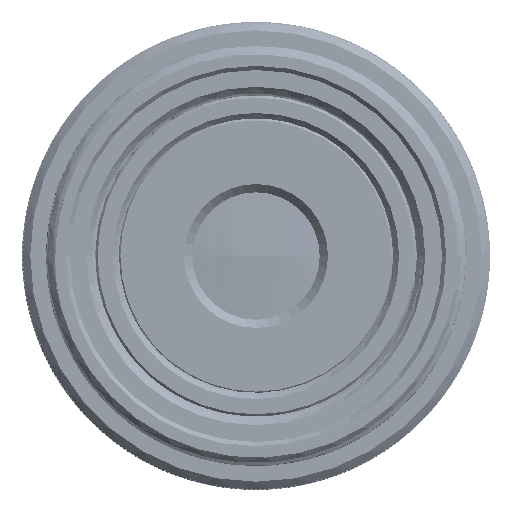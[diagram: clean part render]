
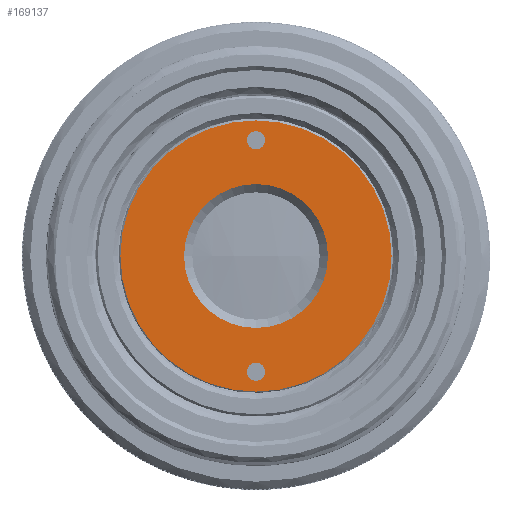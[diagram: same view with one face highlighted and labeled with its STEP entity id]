
A CAD part, front view. The second image highlights one B-rep face of the part: STEP entity #169137.
In plain terms, the highlighted planar face has unit normal (0, -1, 0).
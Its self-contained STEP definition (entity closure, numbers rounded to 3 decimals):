
#71667=CARTESIAN_POINT('',(0.,10.85,-7.));
#71668=DIRECTION('',(0.,-1.,0.));
#71669=DIRECTION('',(0.,0.,-1.));
#71670=AXIS2_PLACEMENT_3D('',#71667,#71668,#71669);
#71672=CARTESIAN_POINT('',(0.,10.85,-7.));
#71673=DIRECTION('',(0.,-1.,0.));
#71674=DIRECTION('',(0.,0.,1.));
#71675=AXIS2_PLACEMENT_3D('',#71672,#71673,#71674);
#71677=CARTESIAN_POINT('',(0.,10.85,7.));
#71678=DIRECTION('',(0.,-1.,0.));
#71679=DIRECTION('',(0.,0.,-1.));
#71680=AXIS2_PLACEMENT_3D('',#71677,#71678,#71679);
#71682=CARTESIAN_POINT('',(0.,10.85,7.));
#71683=DIRECTION('',(0.,-1.,0.));
#71684=DIRECTION('',(0.,0.,1.));
#71685=AXIS2_PLACEMENT_3D('',#71682,#71683,#71684);
#71687=CARTESIAN_POINT('',(0.,10.85,0.));
#71688=DIRECTION('',(0.,1.,0.));
#71689=DIRECTION('',(1.,0.,0.));
#71690=AXIS2_PLACEMENT_3D('',#71687,#71688,#71689);
#71692=CARTESIAN_POINT('',(0.,10.85,0.));
#71693=DIRECTION('',(0.,1.,0.));
#71694=DIRECTION('',(-1.,0.,0.));
#71695=AXIS2_PLACEMENT_3D('',#71692,#71693,#71694);
#71697=CARTESIAN_POINT('',(0.,10.85,0.));
#71698=DIRECTION('',(0.,1.,0.));
#71699=DIRECTION('',(1.,0.,0.));
#71700=AXIS2_PLACEMENT_3D('',#71697,#71698,#71699);
#71702=CARTESIAN_POINT('',(0.,10.85,0.));
#71703=DIRECTION('',(0.,1.,0.));
#71704=DIRECTION('',(-1.,0.,0.));
#71705=AXIS2_PLACEMENT_3D('',#71702,#71703,#71704);
#92970=CARTESIAN_POINT('',(0.,10.85,-7.55));
#92971=CARTESIAN_POINT('',(0.,10.85,-6.45));
#92972=VERTEX_POINT('',#92970);
#92973=VERTEX_POINT('',#92971);
#92974=CARTESIAN_POINT('',(0.,10.85,6.45));
#92975=CARTESIAN_POINT('',(0.,10.85,7.55));
#92976=VERTEX_POINT('',#92974);
#92977=VERTEX_POINT('',#92975);
#92978=CARTESIAN_POINT('',(4.35,10.85,0.));
#92979=CARTESIAN_POINT('',(-4.35,10.85,0.));
#92980=VERTEX_POINT('',#92978);
#92981=VERTEX_POINT('',#92979);
#92990=CARTESIAN_POINT('',(8.2,10.85,0.));
#92991=CARTESIAN_POINT('',(-8.2,10.85,0.));
#92992=VERTEX_POINT('',#92990);
#92993=VERTEX_POINT('',#92991);
#169110=CARTESIAN_POINT('',(0.,10.85,0.));
#169111=DIRECTION('',(0.,1.,0.));
#169112=DIRECTION('',(1.,0.,0.));
#169113=AXIS2_PLACEMENT_3D('',#169110,#169111,#169112);
#169114=PLANE('',#169113);
#169115=ORIENTED_EDGE('',*,*,#168997,.T.);
#169116=ORIENTED_EDGE('',*,*,#169104,.T.);
#169117=EDGE_LOOP('',(#169115,#169116));
#169118=FACE_OUTER_BOUND('',#169117,.F.);
#169120=ORIENTED_EDGE('',*,*,#169119,.T.);
#169122=ORIENTED_EDGE('',*,*,#169121,.T.);
#169123=EDGE_LOOP('',(#169120,#169122));
#169124=FACE_BOUND('',#169123,.F.);
#169126=ORIENTED_EDGE('',*,*,#169125,.F.);
#169128=ORIENTED_EDGE('',*,*,#169127,.F.);
#169129=EDGE_LOOP('',(#169126,#169128));
#169130=FACE_BOUND('',#169129,.F.);
#169132=ORIENTED_EDGE('',*,*,#169131,.T.);
#169134=ORIENTED_EDGE('',*,*,#169133,.T.);
#169135=EDGE_LOOP('',(#169132,#169134));
#169136=FACE_BOUND('',#169135,.F.);
#71671=CIRCLE('',#71670,0.55);
#71676=CIRCLE('',#71675,0.55);
#71681=CIRCLE('',#71680,0.55);
#71686=CIRCLE('',#71685,0.55);
#71691=CIRCLE('',#71690,4.35);
#71696=CIRCLE('',#71695,4.35);
#71701=CIRCLE('',#71700,8.2);
#71706=CIRCLE('',#71705,8.2);
#168997=EDGE_CURVE('',#92992,#92993,#71701,.T.);
#169104=EDGE_CURVE('',#92993,#92992,#71706,.T.);
#169119=EDGE_CURVE('',#92976,#92977,#71681,.T.);
#169121=EDGE_CURVE('',#92977,#92976,#71686,.T.);
#169125=EDGE_CURVE('',#92980,#92981,#71691,.T.);
#169127=EDGE_CURVE('',#92981,#92980,#71696,.T.);
#169131=EDGE_CURVE('',#92972,#92973,#71671,.T.);
#169133=EDGE_CURVE('',#92973,#92972,#71676,.T.);
#169137=ADVANCED_FACE('',(#169118,#169124,#169130,#169136),#169114,.F.);
